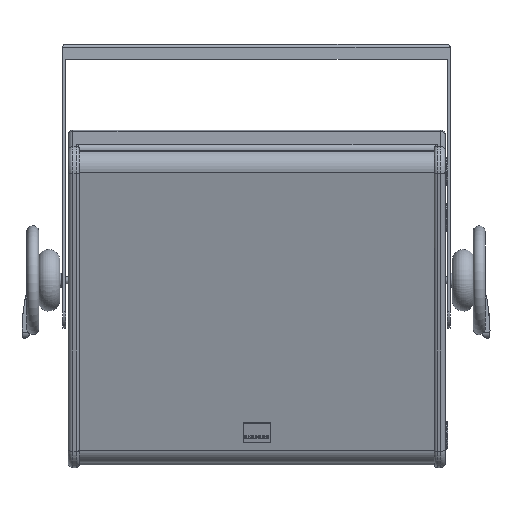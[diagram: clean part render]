
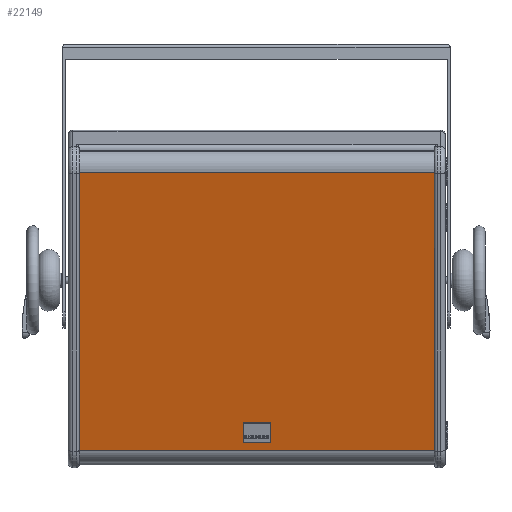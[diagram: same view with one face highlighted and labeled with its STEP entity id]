
A CAD part, top view. The second image highlights one B-rep face of the part: STEP entity #22149.
In plain terms, the highlighted planar face has unit normal (0, -0.259, 0.966) as drawn and (0, -0.966, -0.259) by its records, which use the part's own axes.
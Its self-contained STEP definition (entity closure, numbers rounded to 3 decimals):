
#4495 = DIRECTION ( 'NONE',  ( 0., 0.259, -0.966 ) ) ;
#4496 = VECTOR ( 'NONE', #4495, 1000. ) ;
#4497 = CARTESIAN_POINT ( 'NONE',  ( 482., -38.399, -78.961 ) ) ;
#4498 = LINE ( 'NONE', #4497, #4496 ) ;
#7951 = CARTESIAN_POINT ( 'NONE',  ( 0., 62.453, -455.696 ) ) ;
#7963 = CARTESIAN_POINT ( 'NONE',  ( 0., -38.399, -78.961 ) ) ;
#7964 = DIRECTION ( 'NONE',  ( 0., 0.259, -0.966 ) ) ;
#7965 = VECTOR ( 'NONE', #7964, 1000. ) ;
#7966 = CARTESIAN_POINT ( 'NONE',  ( 0., -38.399, -78.961 ) ) ;
#7967 = DIRECTION ( 'NONE',  ( 0., 0.259, -0.966 ) ) ;
#7968 = DIRECTION ( 'NONE',  ( 0., -0.966, -0.259 ) ) ;
#7969 = CARTESIAN_POINT ( 'NONE',  ( 0., 62.453, -455.696 ) ) ;
#7970 = LINE ( 'NONE', #7966, #7965 ) ;
#7971 = AXIS2_PLACEMENT_3D ( 'NONE', #7969, #7968, #7967 ) ;
#7972 = PLANE ( 'NONE',  #7971 ) ;
#7973 = FACE_OUTER_BOUND ( 'NONE', #22150, .T. ) ;
#7974 = DIRECTION ( 'NONE',  ( -1., 0., 0. ) ) ;
#7975 = VECTOR ( 'NONE', #7974, 1000. ) ;
#7976 = CARTESIAN_POINT ( 'NONE',  ( 0., 62.453, -455.696 ) ) ;
#7977 = LINE ( 'NONE', #7976, #7975 ) ;
#7980 = CARTESIAN_POINT ( 'NONE',  ( 482., 62.453, -455.696 ) ) ;
#8069 = DIRECTION ( 'NONE',  ( 1., 0., 0. ) ) ;
#8070 = VECTOR ( 'NONE', #8069, 1000. ) ;
#8071 = CARTESIAN_POINT ( 'NONE',  ( 0., -38.399, -78.961 ) ) ;
#8076 = LINE ( 'NONE', #8071, #8070 ) ;
#19456 = VERTEX_POINT ( 'NONE', #31701 ) ;
#20454 = EDGE_CURVE ( 'NONE', #19456, #22146, #4498, .T. ) ;
#22146 = VERTEX_POINT ( 'NONE', #7980 ) ;
#22148 = EDGE_CURVE ( 'NONE', #22146, #22167, #7977, .T. ) ;
#22149 = ADVANCED_FACE ( 'NONE', ( #7973 ), #7972, .T. ) ;
#22150 = EDGE_LOOP ( 'NONE', ( #22151, #22154, #22155, #22211 ) ) ;
#22151 = ORIENTED_EDGE ( 'NONE', *, *, #22152, .T. ) ;
#22152 = EDGE_CURVE ( 'NONE', #22153, #22167, #7970, .T. ) ;
#22153 = VERTEX_POINT ( 'NONE', #7963 ) ;
#22154 = ORIENTED_EDGE ( 'NONE', *, *, #22148, .F. ) ;
#22155 = ORIENTED_EDGE ( 'NONE', *, *, #20454, .F. ) ;
#22167 = VERTEX_POINT ( 'NONE', #7951 ) ;
#22211 = ORIENTED_EDGE ( 'NONE', *, *, #22212, .F. ) ;
#22212 = EDGE_CURVE ( 'NONE', #22153, #19456, #8076, .T. ) ;
#31701 = CARTESIAN_POINT ( 'NONE',  ( 482., -38.399, -78.961 ) ) ;
